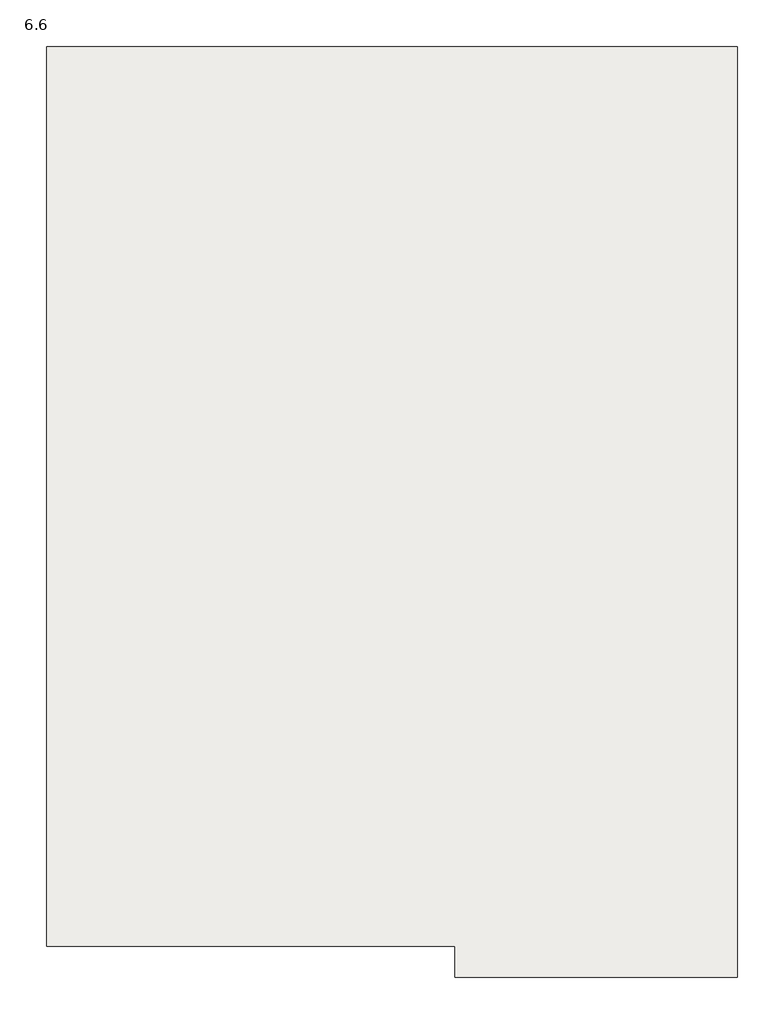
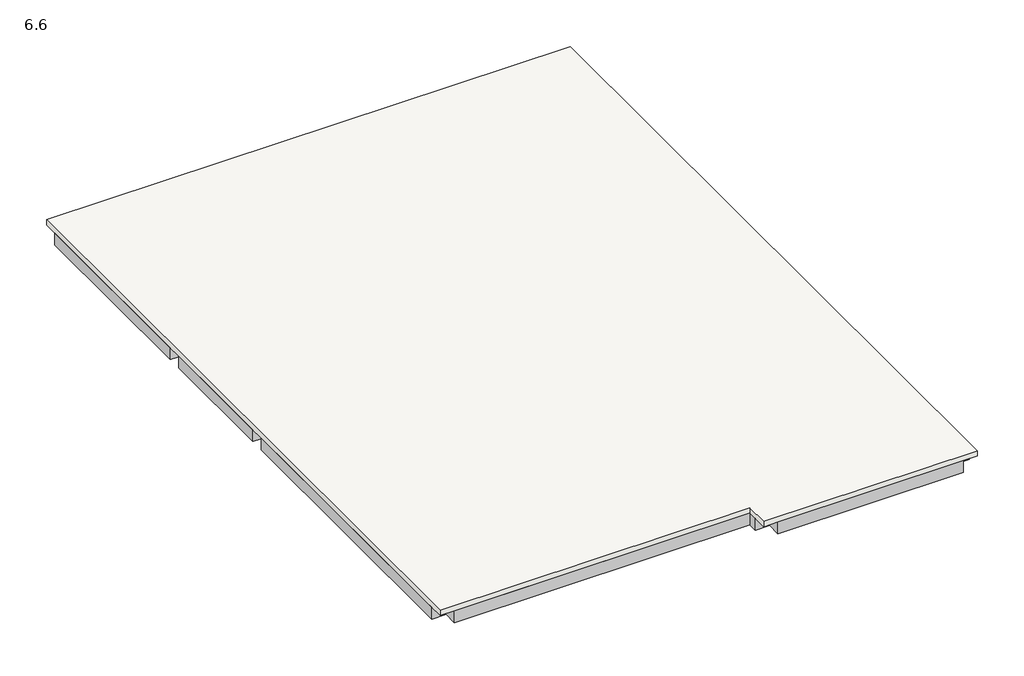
# One storey: 15 beams, 1 slab.
"""IFC4 building model written with IfcOpenShell, lengths in millimetres."""

from ifc_helpers import new_model, si_unit, frame, origin, place, context, project, spatial, polyline, outline, extrude, faceted_brep, element, save

model = new_model("IFC4")

# Units and contexts
model_context = context("Model", 3, world=origin())
ifc_project = project(units=[si_unit("LENGTHUNIT", "METRE", prefix="MILLI")], contexts=[model_context])

# Site, building, storey
site = spatial("IfcSite", under=ifc_project)
building = spatial("IfcBuilding", under=site)
storey = spatial("IfcBuildingStorey", under=building, Name="6.6", Elevation=6600.0)

# Beams
placement = place(None, origin())
element("IfcBeam", 1, ObjectType="混凝土 - 矩形梁 : 240x300", at=placement, inside=storey, context=model_context, shape_type="SweptSolid", body=[
    extrude(outline(polyline([(-17058.0662967, -9534.3219782), (-17298.0662967, -9534.3219782), (-17298.0662967, -4574.3219782), (-17058.0662967, -4574.3219782), (-17058.0662967, -9534.3219782)])), frame((0.0, 0.0, 6300.0), z_axis=(0.0, 0.0, 1.0), x_axis=(1.0, 0.0, 0.0)), (0.0, 0.0, 1.0), 210.0),
    extrude(outline(polyline([(-17298.0662967, 1425.6780218), (-17058.0662967, 1425.6780218), (-17058.0662967, -1934.3219782), (-17298.0662967, -1934.3219782), (-17298.0662967, 1425.6780218)])), frame((0.0, 0.0, 6300.0), z_axis=(0.0, 0.0, 1.0), x_axis=(1.0, 0.0, 0.0)), (0.0, 0.0, 1.0), 210.0),
    extrude(outline(polyline([(-17298.0662967, -2174.3219782), (-17058.0662967, -2174.3219782), (-17058.0662967, -4334.3219782), (-17298.0662967, -4334.3219782), (-17298.0662967, -2174.3219782)])), frame((0.0, 0.0, 6300.0), z_axis=(0.0, 0.0, 1.0), x_axis=(1.0, 0.0, 0.0)), (0.0, 0.0, 1.0), 210.0),
])
element("IfcBeam", 2, ObjectType="混凝土 - 矩形梁 : 240x300", at=placement, inside=storey, context=model_context, shape_type="Brep", body=[
    faceted_brep([(-17058.0662967, -9774.3219782, 6300.0), (-12098.0662967, -9774.3219782, 6300.0), (-11858.0662967, -9774.3219782, 6300.0), (-11858.0662967, -9774.3219782, 6510.0), (-12098.0662967, -9774.3219782, 6510.0), (-17058.0662967, -9774.3219782, 6510.0), (-11858.0662967, -9534.3219782, 6300.0), (-17058.0662967, -9534.3219782, 6300.0), (-12098.0662967, -9534.3219782, 6300.0), (-17058.0662967, -9534.3219782, 6510.0), (-12098.0662967, -9534.3219782, 6510.0), (-11858.0662967, -9534.3219782, 6510.0), (-17058.0662967, -9654.3219782, 6510.0)], [[[0, 1, 2, 3, 4, 5]], [[6, 2, 1, 0, 7, 8]], [[6, 8, 7, 9, 10, 11]], [[0, 5, 12, 9, 7]], [[2, 6, 11, 3]], [[5, 4, 3, 11, 10, 9, 12]]]),
])
element("IfcBeam", 3, ObjectType="混凝土 - 矩形梁 : 240x300", at=placement, inside=storey, context=model_context, shape_type="SweptSolid", body=[
    extrude(outline(polyline([(-12098.0662967, -9774.3219782), (-11858.0662967, -9774.3219782), (-11858.0662967, -9934.3219782), (-12098.0662967, -9934.3219782), (-12098.0662967, -9774.3219782)])), frame((0.0, 0.0, 6300.0), z_axis=(0.0, 0.0, 1.0), x_axis=(1.0, 0.0, 0.0)), (0.0, 0.0, 1.0), 210.0),
])
element("IfcBeam", 4, ObjectType="混凝土 - 矩形梁 : 240x300", at=placement, inside=storey, context=model_context, shape_type="Brep", body=[
    faceted_brep([(-8748.0662967, -10174.3219782, 6300.0), (-8748.0662967, -10174.3219782, 6510.0), (-11858.0662967, -10174.3219782, 6510.0), (-11858.0662967, -10174.3219782, 6300.0), (-11858.0662967, -9934.3219782, 6300.0), (-8748.0662967, -9934.3219782, 6300.0), (-11858.0662967, -9934.3219782, 6510.0), (-8748.0662967, -9934.3219782, 6510.0), (-11858.0662967, -10054.3219782, 6510.0)], [[[0, 1, 2, 3]], [[4, 5, 0, 3]], [[5, 4, 6, 7]], [[3, 2, 8, 6, 4]], [[1, 0, 5, 7]], [[2, 1, 7, 6, 8]]]),
])
element("IfcBeam", 5, ObjectType="混凝土 - 矩形梁 : 240x300", at=placement, inside=storey, context=model_context, shape_type="Brep", body=[
    faceted_brep([(-8508.0662967, -9934.3219782, 6510.0), (-8508.0662967, -9934.3219782, 6300.0), (-8508.0662967, -5074.3219782, 6300.0), (-8508.0662967, -5074.3219782, 6510.0), (-8748.0662967, -9934.3219782, 6300.0), (-8748.0662967, -5074.3219782, 6300.0), (-8748.0662967, -9934.3219782, 6510.0), (-8748.0662967, -5074.3219782, 6510.0), (-8628.0662967, -9934.3219782, 6510.0)], [[[0, 1, 2, 3]], [[1, 4, 5, 2]], [[5, 4, 6, 7]], [[1, 0, 8, 6, 4]], [[3, 2, 5, 7]], [[0, 3, 7, 6, 8]]]),
    faceted_brep([(-8508.0662967, 1425.6780218, 6510.0), (-8508.0662967, 1425.6780218, 6300.0), (-8748.0662967, 1425.6780218, 6300.0), (-8748.0662967, 1425.6780218, 6510.0), (-8508.0662967, -4834.3219782, 6300.0), (-8508.0662967, -4834.3219782, 6510.0), (-8748.0662967, -4834.3219782, 6510.0), (-8748.0662967, -4834.3219782, 6300.0), (-8748.0662967, -2174.3219782, 6300.0), (-8748.0662967, -1934.3219782, 6300.0), (-8748.0662967, -974.3219782, 6300.0), (-8748.0662967, -734.3219782, 6300.0), (-8748.0662967, -734.3219782, 6510.0), (-8748.0662967, -974.3219782, 6510.0), (-8748.0662967, -1934.3219782, 6510.0), (-8748.0662967, -2174.3219782, 6510.0)], [[[0, 1, 2, 3]], [[4, 5, 6, 7]], [[2, 1, 4, 7, 8, 9, 10, 11]], [[5, 0, 3, 12, 13, 14, 15, 6]], [[1, 0, 5, 4]], [[3, 2, 11, 10, 9, 8, 7, 6, 15, 14, 13, 12]]]),
])
element("IfcBeam", 6, ObjectType="混凝土 - 矩形梁 : 240x300", at=placement, inside=storey, context=model_context, shape_type="Brep", body=[
    faceted_brep([(-8748.0662967, 1665.6780218, 6510.0), (-8748.0662967, 1665.6780218, 6300.0), (-10308.0662967, 1665.6780218, 6300.0), (-10308.0662967, 1665.6780218, 6510.0), (-8748.0662967, 1425.6780218, 6300.0), (-10308.0662967, 1425.6780218, 6300.0), (-8748.0662967, 1545.6780218, 6510.0), (-8748.0662967, 1425.6780218, 6510.0), (-10308.0662967, 1425.6780218, 6510.0)], [[[0, 1, 2, 3]], [[1, 4, 5, 2]], [[1, 0, 6, 7, 4]], [[3, 2, 5, 8]], [[0, 3, 8, 7, 6]], [[5, 4, 7, 8]]]),
    faceted_brep([(-17058.0662967, 1425.6780218, 6300.0), (-13498.0662967, 1425.6780218, 6300.0), (-13498.0662967, 1425.6780218, 6510.0), (-17058.0662967, 1425.6780218, 6510.0), (-17058.0662967, 1665.6780218, 6510.0), (-17058.0662967, 1665.6780218, 6300.0), (-17058.0662967, 1545.6780218, 6510.0), (-13498.0662967, 1665.6780218, 6300.0), (-13498.0662967, 1665.6780218, 6510.0)], [[[0, 1, 2, 3]], [[4, 5, 0, 3, 6]], [[7, 8, 2, 1]], [[0, 5, 7, 1]], [[8, 4, 6, 3, 2]], [[5, 4, 8, 7]]]),
    faceted_brep([(-13258.0662967, 1665.6780218, 6510.0), (-13258.0662967, 1665.6780218, 6300.0), (-13258.0662967, 1425.6780218, 6300.0), (-13258.0662967, 1425.6780218, 6510.0), (-10548.0662967, 1665.6780218, 6300.0), (-10548.0662967, 1665.6780218, 6510.0), (-10548.0662967, 1425.6780218, 6510.0), (-10548.0662967, 1425.6780218, 6300.0)], [[[0, 1, 2, 3]], [[4, 5, 6, 7]], [[2, 1, 4, 7]], [[5, 0, 3, 6]], [[1, 0, 5, 4]], [[3, 2, 7, 6]]]),
])
element("IfcBeam", 7, ObjectType="混凝土 - 矩形梁 : 240x300", at=placement, inside=storey, context=model_context, shape_type="Brep", body=[
    faceted_brep([(-13498.0662967, -4574.3219782, 6300.0), (-13498.0662967, -4574.3219782, 6510.0), (-17058.0662967, -4574.3219782, 6510.0), (-17058.0662967, -4574.3219782, 6300.0), (-13498.0662967, -4334.3219782, 6300.0), (-17058.0662967, -4334.3219782, 6300.0), (-16258.0662967, -4334.3219782, 6300.0), (-16018.0662967, -4334.3219782, 6300.0), (-13498.0662967, -4334.3219782, 6510.0), (-17058.0662967, -4334.3219782, 6510.0), (-16258.0662967, -4334.3219782, 6510.0), (-16018.0662967, -4334.3219782, 6510.0)], [[[0, 1, 2, 3]], [[4, 0, 3, 5, 6, 7]], [[8, 4, 7, 6, 5, 9, 10, 11]], [[1, 0, 4, 8]], [[5, 3, 2, 9]], [[2, 1, 8, 11, 10, 9]]]),
])
element("IfcBeam", 8, ObjectType="混凝土 - 矩形梁 : 240x300", at=placement, inside=storey, context=model_context, shape_type="Brep", body=[
    faceted_brep([(-13498.0662967, -2174.3219782, 6300.0), (-13498.0662967, -2174.3219782, 6510.0), (-16018.0662967, -2174.3219782, 6510.0), (-16258.0662967, -2174.3219782, 6510.0), (-17058.0662967, -2174.3219782, 6510.0), (-17058.0662967, -2174.3219782, 6300.0), (-16258.0662967, -2174.3219782, 6300.0), (-16018.0662967, -2174.3219782, 6300.0), (-13498.0662967, -1934.3219782, 6300.0), (-17058.0662967, -1934.3219782, 6300.0), (-13498.0662967, -1934.3219782, 6510.0), (-17058.0662967, -1934.3219782, 6510.0)], [[[0, 1, 2, 3, 4, 5, 6, 7]], [[8, 0, 7, 6, 5, 9]], [[10, 8, 9, 11]], [[1, 0, 8, 10]], [[9, 5, 4, 11]], [[4, 3, 2, 1, 10, 11]]]),
])
element("IfcBeam", 9, ObjectType="混凝土 - 矩形梁 : 240x300", at=placement, inside=storey, context=model_context, shape_type="SweptSolid", body=[
    extrude(outline(polyline([(-8748.0662967, -4834.3219782), (-8748.0662967, -5074.3219782), (-11858.0662967, -5074.3219782), (-11858.0662967, -4834.3219782), (-8748.0662967, -4834.3219782)])), frame((0.0, 0.0, 6300.0), z_axis=(0.0, 0.0, 1.0), x_axis=(1.0, 0.0, 0.0)), (0.0, 0.0, 1.0), 210.0),
])
element("IfcBeam", 10, ObjectType="混凝土 - 矩形梁 : 240x300", at=placement, inside=storey, context=model_context, shape_type="SweptSolid", body=[
    extrude(outline(polyline([(-8748.0662967, -1934.3219782), (-8748.0662967, -2174.3219782), (-11858.0662967, -2174.3219782), (-11858.0662967, -1934.3219782), (-8748.0662967, -1934.3219782)])), frame((0.0, 0.0, 6300.0), z_axis=(0.0, 0.0, 1.0), x_axis=(1.0, 0.0, 0.0)), (0.0, 0.0, 1.0), 210.0),
])
element("IfcBeam", 11, ObjectType="混凝土 - 矩形梁 : 240x300", at=placement, inside=storey, context=model_context, shape_type="SweptSolid", body=[
    extrude(outline(polyline([(-13258.0662967, -974.3219782), (-13258.0662967, -734.3219782), (-10548.0662967, -734.3219782), (-10548.0662967, -974.3219782), (-13258.0662967, -974.3219782)])), frame((0.0, 0.0, 6300.0), z_axis=(0.0, 0.0, 1.0), x_axis=(1.0, 0.0, 0.0)), (0.0, 0.0, 1.0), 210.0),
    extrude(outline(polyline([(-8748.0662967, -734.3219782), (-8748.0662967, -974.3219782), (-10308.0662967, -974.3219782), (-10308.0662967, -734.3219782), (-8748.0662967, -734.3219782)])), frame((0.0, 0.0, 6300.0), z_axis=(0.0, 0.0, 1.0), x_axis=(1.0, 0.0, 0.0)), (0.0, 0.0, 1.0), 210.0),
])
element("IfcBeam", 12, ObjectType="混凝土 - 矩形梁 : 240x300", at=placement, inside=storey, context=model_context, shape_type="Brep", body=[
    faceted_brep([(-13498.0662967, -974.3219782, 6300.0), (-13498.0662967, -1934.3219782, 6300.0), (-13498.0662967, -1934.3219782, 6510.0), (-13498.0662967, -974.3219782, 6510.0), (-13258.0662967, -1934.3219782, 6300.0), (-13258.0662967, -1934.3219782, 6510.0), (-13378.0662967, -1934.3219782, 6510.0), (-13378.0662967, -974.3219782, 6510.0), (-13258.0662967, -974.3219782, 6510.0), (-13258.0662967, -974.3219782, 6300.0)], [[[0, 1, 2, 3]], [[4, 5, 6, 2, 1]], [[0, 3, 7, 8, 9]], [[1, 0, 9, 4]], [[3, 2, 6, 5, 8, 7]], [[4, 9, 8, 5]]]),
    faceted_brep([(-13498.0662967, -4334.3219782, 6300.0), (-13498.0662967, -2174.3219782, 6300.0), (-13258.0662967, -2174.3219782, 6300.0), (-13258.0662967, -4334.3219782, 6300.0), (-13258.0662967, -4334.3219782, 6510.0), (-13378.0662967, -4334.3219782, 6510.0), (-13498.0662967, -4334.3219782, 6510.0), (-13258.0662967, -2174.3219782, 6510.0), (-13498.0662967, -2174.3219782, 6510.0), (-13378.0662967, -2174.3219782, 6510.0)], [[[0, 1, 2, 3]], [[3, 4, 5, 6, 0]], [[7, 2, 1, 8, 9]], [[1, 0, 6, 8]], [[4, 3, 2, 7]], [[5, 4, 7, 9, 8, 6]]]),
    faceted_brep([(-13258.0662967, -734.3219782, 6300.0), (-13258.0662967, 1425.6780218, 6300.0), (-13258.0662967, 1425.6780218, 6510.0), (-13258.0662967, -734.3219782, 6510.0), (-13498.0662967, -734.3219782, 6510.0), (-13498.0662967, -734.3219782, 6300.0), (-13378.0662967, -734.3219782, 6510.0), (-13498.0662967, 1425.6780218, 6300.0), (-13498.0662967, 1425.6780218, 6510.0)], [[[0, 1, 2, 3]], [[4, 5, 0, 3, 6]], [[1, 7, 8, 2]], [[1, 0, 5, 7]], [[8, 4, 6, 3, 2]], [[7, 5, 4, 8]]]),
])
element("IfcBeam", 13, ObjectType="混凝土 - 矩形梁 : 240x300", at=placement, inside=storey, context=model_context, shape_type="Brep", body=[
    faceted_brep([(-12098.0662967, -2174.3219782, 6510.0), (-12098.0662967, -2174.3219782, 6300.0), (-12098.0662967, -4834.3219782, 6300.0), (-12098.0662967, -4834.3219782, 6510.0), (-11858.0662967, -2174.3219782, 6300.0), (-11858.0662967, -4834.3219782, 6300.0), (-11858.0662967, -2174.3219782, 6510.0), (-11858.0662967, -4834.3219782, 6510.0), (-11978.0662967, -2174.3219782, 6510.0), (-11978.0662967, -4834.3219782, 6510.0)], [[[0, 1, 2, 3]], [[4, 5, 2, 1]], [[5, 4, 6, 7]], [[1, 0, 8, 6, 4]], [[3, 2, 5, 7, 9]], [[0, 3, 9, 7, 6, 8]]]),
    faceted_brep([(-12098.0662967, -9534.3219782, 6300.0), (-11858.0662967, -9534.3219782, 6300.0), (-11858.0662967, -9534.3219782, 6510.0), (-12098.0662967, -9534.3219782, 6510.0), (-12098.0662967, -5074.3219782, 6300.0), (-12098.0662967, -5074.3219782, 6510.0), (-11978.0662967, -5074.3219782, 6510.0), (-11858.0662967, -5074.3219782, 6510.0), (-11858.0662967, -5074.3219782, 6300.0)], [[[0, 1, 2, 3]], [[4, 5, 6, 7, 8]], [[1, 8, 7, 2]], [[1, 0, 4, 8]], [[5, 3, 2, 7, 6]], [[4, 0, 3, 5]]]),
])
element("IfcBeam", 14, ObjectType="混凝土 - 矩形梁 : 240x300", at=placement, inside=storey, context=model_context, shape_type="SweptSolid", body=[
    extrude(outline(polyline([(-10308.0662967, -734.3219782), (-10548.0662967, -734.3219782), (-10548.0662967, 1425.6780218), (-10308.0662967, 1425.6780218), (-10308.0662967, -734.3219782)])), frame((0.0, 0.0, 6300.0), z_axis=(0.0, 0.0, 1.0), x_axis=(1.0, 0.0, 0.0)), (0.0, 0.0, 1.0), 210.0),
])
element("IfcBeam", 15, ObjectType="混凝土 - 矩形梁 : 240x300", at=placement, inside=storey, context=model_context, shape_type="SweptSolid", body=[
    extrude(outline(polyline([(-16018.0662967, -4334.3219782), (-16258.0662967, -4334.3219782), (-16258.0662967, -2174.3219782), (-16018.0662967, -2174.3219782), (-16018.0662967, -4334.3219782)])), frame((0.0, 0.0, 6300.0), z_axis=(0.0, 0.0, 1.0), x_axis=(1.0, 0.0, 0.0)), (0.0, 0.0, 1.0), 210.0),
])

# Slab
element("IfcSlab", 16, ObjectType="常规 - 90mm", at=placement, inside=storey, context=model_context, shape_type="Brep", body=[
    faceted_brep([(-8508.0662967, 1665.6780218, 6510.0), (-8508.0662967, 1425.6780218, 6510.0), (-8508.0662967, -4834.3219782, 6510.0), (-8508.0662967, -5074.3219782, 6510.0), (-8508.0662967, -9934.3219782, 6510.0), (-8508.0662967, -10174.3219782, 6510.0), (-8748.0662967, -10174.3219782, 6510.0), (-11858.0662967, -10174.3219782, 6510.0), (-12098.0662967, -10174.3219782, 6510.0), (-12098.0662967, -9934.3219782, 6510.0), (-12098.0662967, -9774.3219782, 6510.0), (-17058.0662967, -9774.3219782, 6510.0), (-17298.0662967, -9774.3219782, 6510.0), (-17298.0662967, -9534.3219782, 6510.0), (-17298.0662967, -4574.3219782, 6510.0), (-17298.0662967, -4334.3219782, 6510.0), (-17298.0662967, -2174.3219782, 6510.0), (-17298.0662967, -1934.3219782, 6510.0), (-17298.0662967, 1425.6780218, 6510.0), (-17298.0662967, 1665.6780218, 6510.0), (-17058.0662967, 1665.6780218, 6510.0), (-13498.0662967, 1665.6780218, 6510.0), (-13258.0662967, 1665.6780218, 6510.0), (-10548.0662967, 1665.6780218, 6510.0), (-10308.0662967, 1665.6780218, 6510.0), (-8748.0662967, 1665.6780218, 6510.0), (-8508.0662967, 1665.6780218, 6600.0), (-17298.0662967, 1665.6780218, 6600.0), (-17298.0662967, -9774.3219782, 6600.0), (-12098.0662967, -9774.3219782, 6600.0), (-12098.0662967, -10174.3219782, 6600.0), (-8508.0662967, -10174.3219782, 6600.0)], [[[0, 1, 2, 3, 4, 5, 6, 7, 8, 9, 10, 11, 12, 13, 14, 15, 16, 17, 18, 19, 20, 21, 22, 23, 24, 25]], [[26, 27, 28, 29, 30, 31]], [[5, 4, 3, 2, 1, 0, 26, 31]], [[8, 7, 6, 5, 31, 30]], [[10, 9, 8, 30, 29]], [[12, 11, 10, 29, 28]], [[19, 18, 17, 16, 15, 14, 13, 12, 28, 27]], [[0, 25, 24, 23, 22, 21, 20, 19, 27, 26]]]),
])

save(model, "model.ifc")
